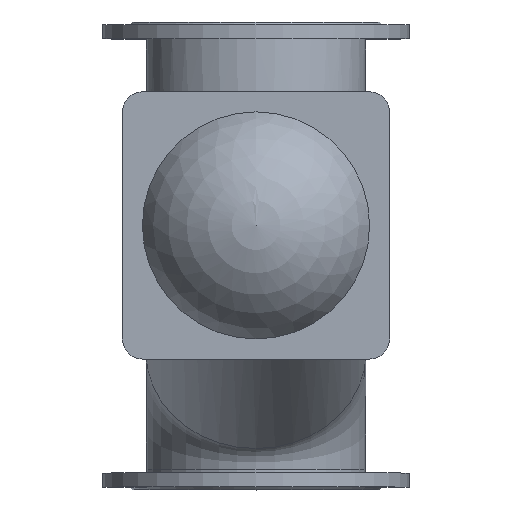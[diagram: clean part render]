
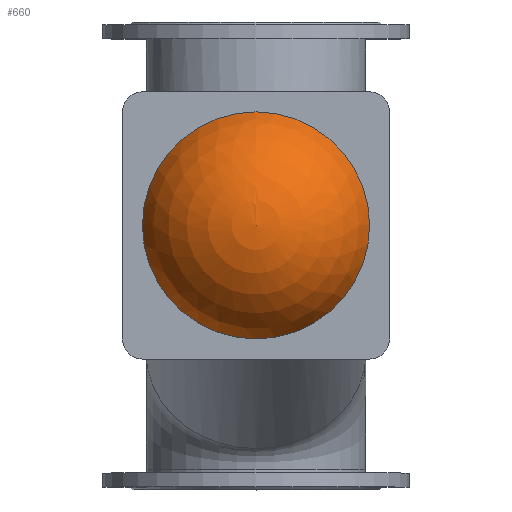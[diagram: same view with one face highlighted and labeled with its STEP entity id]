
A CAD part, top view. The second image highlights one B-rep face of the part: STEP entity #660.
In plain terms, the highlighted spherical face has radius 180.417 mm.
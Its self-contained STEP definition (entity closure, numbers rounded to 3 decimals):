
#660=ADVANCED_FACE('',(#2258),#2260,.T.);
#2258=FACE_OUTER_BOUND('',#2259,.T.);
#2259=EDGE_LOOP('',(#2625));
#2260=SPHERICAL_SURFACE('',#2261,180.417);
#2261=AXIS2_PLACEMENT_3D('',#2262,#2263,#2264);
#2262=CARTESIAN_POINT('',(0.,45.,377.583));
#2263=DIRECTION('',(0.,0.,-1.));
#2264=DIRECTION('',(0.,1.,0.));
#2625=ORIENTED_EDGE('',*,*,#2809,.T.);
#2809=EDGE_CURVE('',#3088,#3088,#3089,.F.);
#3088=VERTEX_POINT('',#3985);
#3089=CIRCLE('',#3986,170.);
#3985=CARTESIAN_POINT('',(0.,215.,438.));
#3986=AXIS2_PLACEMENT_3D('',#3987,#3988,#3989);
#3987=CARTESIAN_POINT('',(0.,45.,438.));
#3988=DIRECTION('',(0.,0.,-1.));
#3989=DIRECTION('',(0.,1.,0.));
